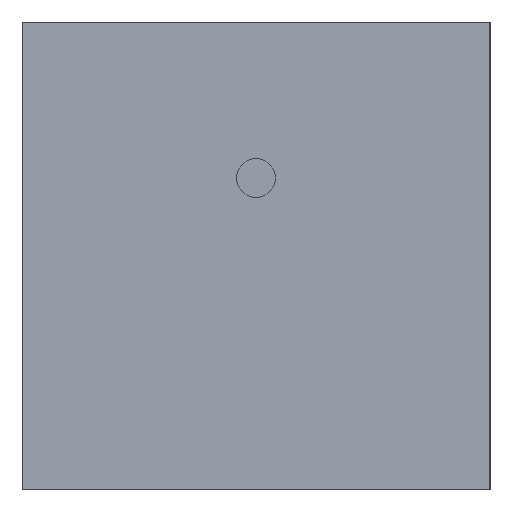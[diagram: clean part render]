
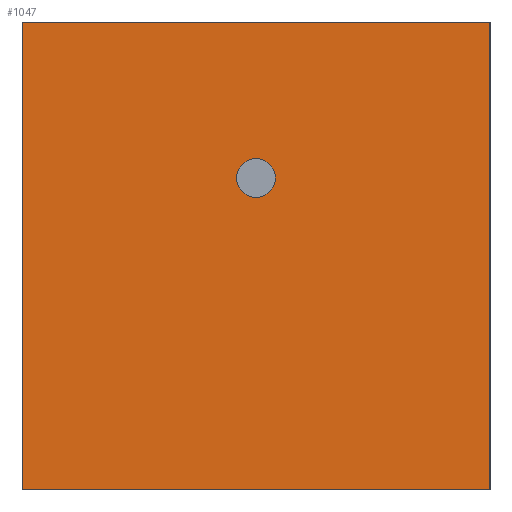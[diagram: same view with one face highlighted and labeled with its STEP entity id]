
A CAD part, left-side view. The second image highlights one B-rep face of the part: STEP entity #1047.
In plain terms, the highlighted planar face has unit normal (-1, 0, 0).
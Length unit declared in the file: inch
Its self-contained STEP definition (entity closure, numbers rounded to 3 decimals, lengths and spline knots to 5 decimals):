
#28=FACE_BOUND('',#171,.T.);
#48=PLANE('',#1131);
#107=FACE_OUTER_BOUND('',#170,.T.);
#170=EDGE_LOOP('',(#834,#835,#836,#837));
#171=EDGE_LOOP('',(#838));
#254=LINE('',#1542,#390);
#258=LINE('',#1549,#394);
#262=LINE('',#1557,#398);
#265=LINE('',#1561,#401);
#390=VECTOR('',#1252,0.3937);
#394=VECTOR('',#1258,0.3937);
#398=VECTOR('',#1264,0.3937);
#401=VECTOR('',#1269,0.3937);
#490=CIRCLE('',#1113,0.25);
#498=VERTEX_POINT('',#1463);
#524=VERTEX_POINT('',#1539);
#525=VERTEX_POINT('',#1541);
#527=VERTEX_POINT('',#1548);
#530=VERTEX_POINT('',#1556);
#595=EDGE_CURVE('',#498,#498,#490,.T.);
#632=EDGE_CURVE('',#525,#524,#254,.T.);
#636=EDGE_CURVE('',#527,#525,#258,.T.);
#640=EDGE_CURVE('',#530,#527,#262,.T.);
#643=EDGE_CURVE('',#524,#530,#265,.T.);
#834=ORIENTED_EDGE('',*,*,#636,.T.);
#835=ORIENTED_EDGE('',*,*,#632,.T.);
#836=ORIENTED_EDGE('',*,*,#643,.T.);
#837=ORIENTED_EDGE('',*,*,#640,.T.);
#838=ORIENTED_EDGE('',*,*,#595,.T.);
#1047=ADVANCED_FACE('',(#107,#28),#48,.T.);
#1113=AXIS2_PLACEMENT_3D('',#1465,#1188,#1189);
#1131=AXIS2_PLACEMENT_3D('',#1563,#1272,#1273);
#1188=DIRECTION('center_axis',(1.,0.,0.));
#1189=DIRECTION('ref_axis',(0.,1.,0.));
#1252=DIRECTION('',(0.,1.,0.));
#1258=DIRECTION('',(0.,0.,1.));
#1264=DIRECTION('',(0.,-1.,0.));
#1269=DIRECTION('',(0.,0.,-1.));
#1272=DIRECTION('center_axis',(-1.,0.,0.));
#1273=DIRECTION('ref_axis',(0.,0.,1.));
#1463=CARTESIAN_POINT('',(-0.75197,2.75,4.));
#1465=CARTESIAN_POINT('Origin',(-0.75197,3.,4.));
#1539=CARTESIAN_POINT('',(-0.75197,6.,6.));
#1541=CARTESIAN_POINT('',(-0.75197,0.,6.));
#1542=CARTESIAN_POINT('',(-0.75197,6.,6.));
#1548=CARTESIAN_POINT('',(-0.75197,0.,0.));
#1549=CARTESIAN_POINT('',(-0.75197,0.,6.));
#1556=CARTESIAN_POINT('',(-0.75197,6.,0.));
#1557=CARTESIAN_POINT('',(-0.75197,0.,0.));
#1561=CARTESIAN_POINT('',(-0.75197,6.,0.));
#1563=CARTESIAN_POINT('Origin',(-0.75197,3.,3.));
